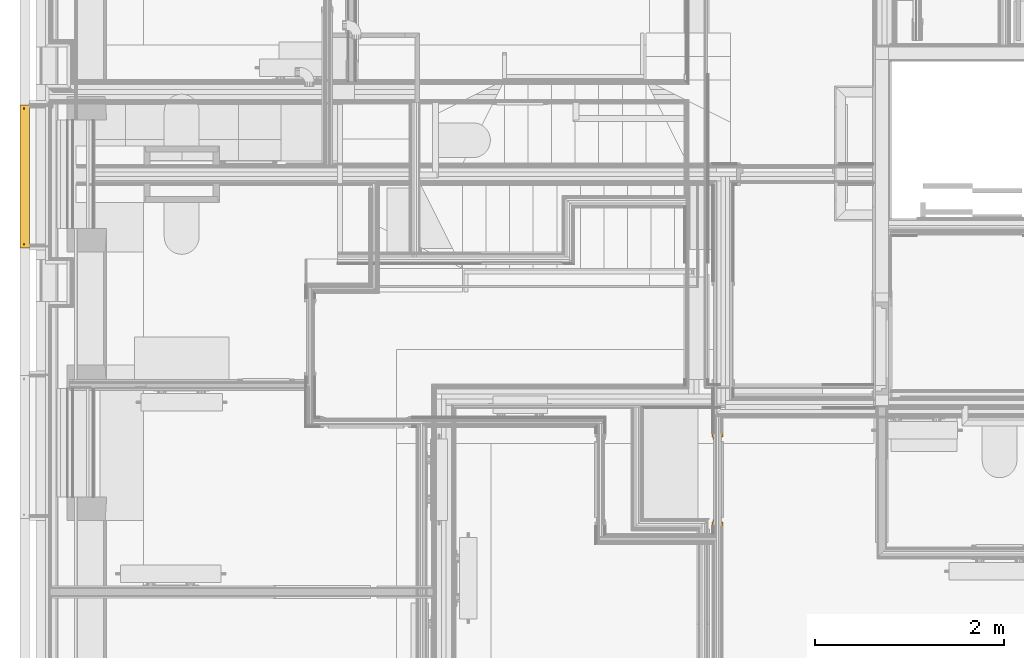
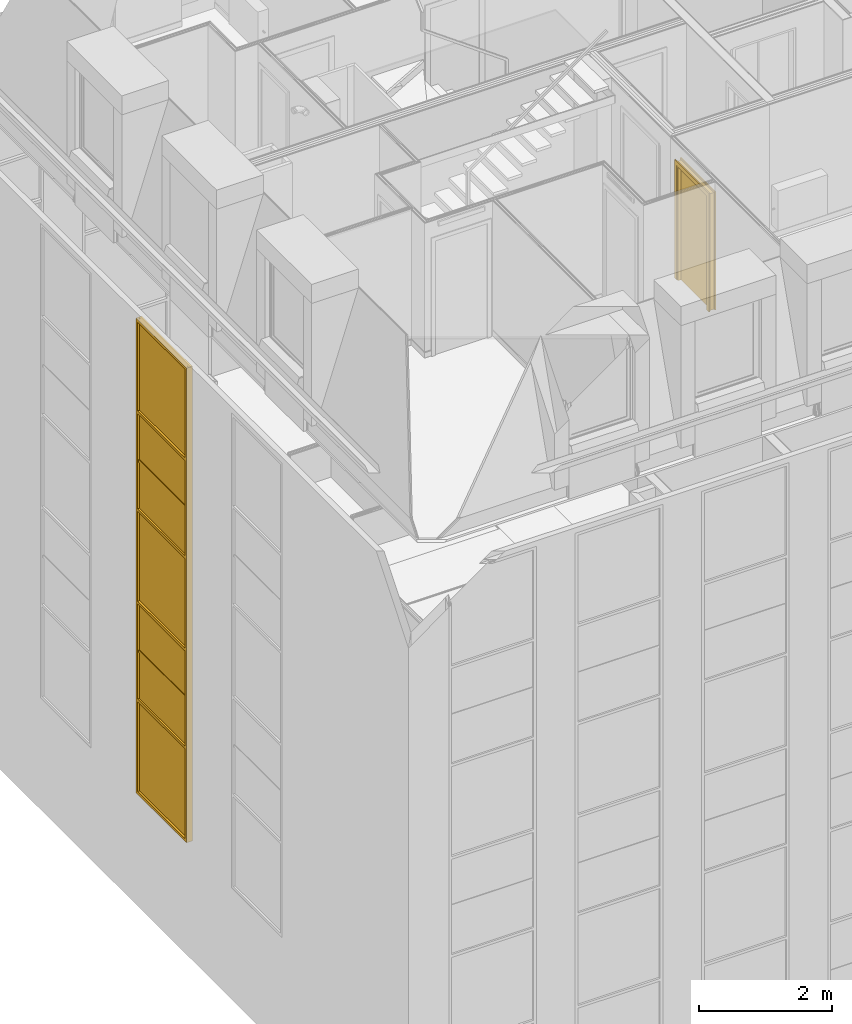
# One storey, part 97 of 169: 1 curtain wall, 1 door.
"""IFC2X3 building model written with IfcOpenShell, lengths in metres."""

from ifc_helpers import new_model, entity, si_unit, converted_unit, derived_unit, money_unit, direction, frame, origin_with_axes, place, context, subcontext, project, spatial, faceted_brep, material, type_object, element, save


model = new_model("IFC2X3")

# Units and contexts
model_context = context("Model", 3, precision=1e-05, world=origin_with_axes(), true_north=direction((0.0, 1.0)))
body_context = subcontext(model_context, "Body", "Model", "MODEL_VIEW", scale=1.0)
ifc_project = project(units=[si_unit("LENGTHUNIT", "METRE"), si_unit("AREAUNIT", "SQUARE_METRE"), si_unit("VOLUMEUNIT", "CUBIC_METRE"), si_unit("ABSORBEDDOSEUNIT", "GRAY"), si_unit("AMOUNTOFSUBSTANCEUNIT", "MOLE"), si_unit("DOSEEQUIVALENTUNIT", "SIEVERT"), si_unit("ELECTRICCAPACITANCEUNIT", "FARAD"), si_unit("ELECTRICCHARGEUNIT", "COULOMB"), si_unit("ELECTRICCONDUCTANCEUNIT", "SIEMENS"), si_unit("ELECTRICCURRENTUNIT", "AMPERE"), si_unit("ELECTRICRESISTANCEUNIT", "OHM"), si_unit("ELECTRICVOLTAGEUNIT", "VOLT"), si_unit("ENERGYUNIT", "JOULE"), si_unit("FORCEUNIT", "NEWTON"), si_unit("FREQUENCYUNIT", "HERTZ"), si_unit("ILLUMINANCEUNIT", "LUX"), si_unit("INDUCTANCEUNIT", "HENRY"), si_unit("LUMINOUSFLUXUNIT", "LUMEN"), si_unit("LUMINOUSINTENSITYUNIT", "CANDELA"), si_unit("MAGNETICFLUXDENSITYUNIT", "TESLA"), si_unit("MAGNETICFLUXUNIT", "WEBER"), si_unit("MASSUNIT", "GRAM"), converted_unit("PLANEANGLEUNIT", "degree", entity("IfcReal", 0.0174532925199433), si_unit("PLANEANGLEUNIT", "RADIAN"), dimensions=[0, 0, 0, 0, 0, 0, 0]), si_unit("POWERUNIT", "WATT"), si_unit("PRESSUREUNIT", "PASCAL"), si_unit("RADIOACTIVITYUNIT", "BECQUEREL"), si_unit("SOLIDANGLEUNIT", "STERADIAN"), si_unit("THERMODYNAMICTEMPERATUREUNIT", "KELVIN"), si_unit("TIMEUNIT", "SECOND"), derived_unit("ACCELERATIONUNIT", [(si_unit("LENGTHUNIT", "METRE"), 1), (si_unit("TIMEUNIT", "SECOND"), -2)]), derived_unit("ANGULARVELOCITYUNIT", [(converted_unit("PLANEANGLEUNIT", "degree", entity("IfcReal", 0.0174532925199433), si_unit("PLANEANGLEUNIT", "RADIAN"), dimensions=[0, 0, 0, 0, 0, 0, 0]), 1), (si_unit("TIMEUNIT", "SECOND"), -1)]), derived_unit("CURVATUREUNIT", [(converted_unit("PLANEANGLEUNIT", "degree", entity("IfcReal", 0.0174532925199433), si_unit("PLANEANGLEUNIT", "RADIAN"), dimensions=[0, 0, 0, 0, 0, 0, 0]), 1), (si_unit("LENGTHUNIT", "METRE"), -1)]), derived_unit("DYNAMICVISCOSITYUNIT", [(si_unit("PRESSUREUNIT", "PASCAL"), 1), (si_unit("TIMEUNIT", "SECOND"), 1)]), derived_unit("HEATFLUXDENSITYUNIT", [(si_unit("POWERUNIT", "WATT"), 1), (si_unit("LENGTHUNIT", "METRE"), -2)]), derived_unit("HEATINGVALUEUNIT", [(si_unit("ENERGYUNIT", "JOULE"), 1), (si_unit("MASSUNIT", "GRAM"), -1)]), derived_unit("INTEGERCOUNTRATEUNIT", [(si_unit("TIMEUNIT", "SECOND"), -1)]), derived_unit("IONCONCENTRATIONUNIT", [(si_unit("MASSUNIT", "GRAM"), 1), (si_unit("VOLUMEUNIT", "CUBIC_METRE"), -1)]), derived_unit("ISOTHERMALMOISTURECAPACITYUNIT", [(si_unit("VOLUMEUNIT", "CUBIC_METRE"), 1), (si_unit("MASSUNIT", "GRAM"), -1)]), derived_unit("KINEMATICVISCOSITYUNIT", [(si_unit("AREAUNIT", "SQUARE_METRE"), 1), (si_unit("TIMEUNIT", "SECOND"), -1)]), derived_unit("LINEARFORCEUNIT", [(si_unit("FORCEUNIT", "NEWTON"), 1), (si_unit("LENGTHUNIT", "METRE"), -1)]), derived_unit("LINEARMOMENTUNIT", [(si_unit("FORCEUNIT", "NEWTON"), 1), (si_unit("LENGTHUNIT", "METRE"), -1)]), derived_unit("LINEARSTIFFNESSUNIT", [(si_unit("FORCEUNIT", "NEWTON"), 1), (si_unit("LENGTHUNIT", "METRE"), -1)]), derived_unit("LINEARVELOCITYUNIT", [(si_unit("LENGTHUNIT", "METRE"), 1), (si_unit("TIMEUNIT", "SECOND"), -1)]), derived_unit("LUMINOUSINTENSITYDISTRIBUTIONUNIT", [(si_unit("LUMINOUSINTENSITYUNIT", "CANDELA"), 1), (si_unit("LUMINOUSFLUXUNIT", "LUMEN"), -1)]), derived_unit("MASSDENSITYUNIT", [(si_unit("MASSUNIT", "GRAM"), 1), (si_unit("VOLUMEUNIT", "CUBIC_METRE"), -1)]), derived_unit("MASSFLOWRATEUNIT", [(si_unit("MASSUNIT", "GRAM"), 1), (si_unit("TIMEUNIT", "SECOND"), -1)]), derived_unit("MASSPERLENGTHUNIT", [(si_unit("MASSUNIT", "GRAM"), 1), (si_unit("LENGTHUNIT", "METRE"), -1)]), derived_unit("MODULUSOFELASTICITYUNIT", [(si_unit("FORCEUNIT", "NEWTON"), 1), (si_unit("AREAUNIT", "SQUARE_METRE"), -1)]), derived_unit("MODULUSOFLINEARSUBGRADEREACTIONUNIT", [(si_unit("FORCEUNIT", "NEWTON"), 1), (si_unit("LENGTHUNIT", "METRE"), -2)]), derived_unit("MODULUSOFROTATIONALSUBGRADEREACTIONUNIT", [(si_unit("FORCEUNIT", "NEWTON"), 1), (si_unit("LENGTHUNIT", "METRE"), 1)]), derived_unit("MODULUSOFSUBGRADEREACTIONUNIT", [(si_unit("FORCEUNIT", "NEWTON"), 1), (si_unit("VOLUMEUNIT", "CUBIC_METRE"), -1)]), derived_unit("MOISTUREDIFFUSIVITYUNIT", [(si_unit("VOLUMEUNIT", "CUBIC_METRE"), 1), (si_unit("TIMEUNIT", "SECOND"), -1)]), derived_unit("MOLECULARWEIGHTUNIT", [(si_unit("MASSUNIT", "GRAM"), 1), (si_unit("AMOUNTOFSUBSTANCEUNIT", "MOLE"), -1)]), derived_unit("PLANARFORCEUNIT", [(si_unit("FORCEUNIT", "NEWTON"), 1), (si_unit("LENGTHUNIT", "METRE"), -2)]), derived_unit("ROTATIONALFREQUENCYUNIT", [(si_unit("TIMEUNIT", "SECOND"), -1)]), derived_unit("ROTATIONALMASSUNIT", [(si_unit("MASSUNIT", "GRAM"), 1), (si_unit("LENGTHUNIT", "METRE"), 2)]), derived_unit("ROTATIONALSTIFFNESSUNIT", [(si_unit("FORCEUNIT", "NEWTON"), 1), (si_unit("LENGTHUNIT", "METRE"), 1), (converted_unit("PLANEANGLEUNIT", "degree", entity("IfcReal", 0.0174532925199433), si_unit("PLANEANGLEUNIT", "RADIAN"), dimensions=[0, 0, 0, 0, 0, 0, 0]), -1)]), derived_unit("SECTIONAREAINTEGRALUNIT", [(si_unit("LENGTHUNIT", "METRE"), 5)]), derived_unit("SECTIONMODULUSUNIT", [(si_unit("LENGTHUNIT", "METRE"), 3)]), derived_unit("SHEARMODULUSUNIT", [(si_unit("FORCEUNIT", "NEWTON"), 1), (si_unit("AREAUNIT", "SQUARE_METRE"), -1)]), derived_unit("SOUNDPOWERUNIT", [(si_unit("ENERGYUNIT", "JOULE"), 1), (si_unit("TIMEUNIT", "SECOND"), -1)]), derived_unit("SPECIFICHEATCAPACITYUNIT", [(si_unit("FORCEUNIT", "NEWTON"), 1), (si_unit("MASSUNIT", "GRAM"), -1), (si_unit("THERMODYNAMICTEMPERATUREUNIT", "KELVIN"), -1)]), derived_unit("TEMPERATUREGRADIENTUNIT", [(si_unit("THERMODYNAMICTEMPERATUREUNIT", "KELVIN"), 1), (si_unit("LENGTHUNIT", "METRE"), -1)]), derived_unit("THERMALADMITTANCEUNIT", [(si_unit("POWERUNIT", "WATT"), 1), (si_unit("AREAUNIT", "SQUARE_METRE"), -1), (si_unit("THERMODYNAMICTEMPERATUREUNIT", "KELVIN"), -1)]), derived_unit("THERMALCONDUCTANCEUNIT", [(si_unit("POWERUNIT", "WATT"), 1), (si_unit("LENGTHUNIT", "METRE"), -1), (si_unit("THERMODYNAMICTEMPERATUREUNIT", "KELVIN"), -1)]), derived_unit("THERMALEXPANSIONCOEFFICIENTUNIT", [(si_unit("THERMODYNAMICTEMPERATUREUNIT", "KELVIN"), -1)]), derived_unit("THERMALRESISTANCEUNIT", [(si_unit("AREAUNIT", "SQUARE_METRE"), 1), (si_unit("POWERUNIT", "WATT"), -1)]), derived_unit("THERMALTRANSMITTANCEUNIT", [(si_unit("POWERUNIT", "WATT"), 1), (si_unit("AREAUNIT", "SQUARE_METRE"), -1), (si_unit("THERMODYNAMICTEMPERATUREUNIT", "KELVIN"), -1)]), derived_unit("TORQUEUNIT", [(si_unit("FORCEUNIT", "NEWTON"), 1), (si_unit("LENGTHUNIT", "METRE"), 1)]), derived_unit("VAPORPERMEABILITYUNIT", [(si_unit("MASSUNIT", "GRAM"), 1), (si_unit("TIMEUNIT", "SECOND"), -1)]), derived_unit("VOLUMETRICFLOWRATEUNIT", [(si_unit("VOLUMEUNIT", "CUBIC_METRE"), 1), (si_unit("TIMEUNIT", "SECOND"), -1)]), derived_unit("WARPINGCONSTANTUNIT", [(si_unit("LENGTHUNIT", "METRE"), 6)]), derived_unit("WARPINGMOMENTUNIT", [(si_unit("FORCEUNIT", "NEWTON"), 1), (si_unit("LENGTHUNIT", "METRE"), 2)]), money_unit("GBP")], contexts=[model_context])

# Site, building, storey
site_placement = place(None, origin_with_axes())
site = spatial("IfcSite", under=ifc_project, at=site_placement, Name="Site", CompositionType="ELEMENT")
building_placement = place(site_placement, origin_with_axes())
building = spatial("IfcBuilding", under=site, at=building_placement, Name="Building01", CompositionType="ELEMENT")
storey_placement = place(building_placement, frame((0.0, 0.0, 5.15), z_axis=(0.0, 0.0, 1.0), x_axis=(1.0, 0.0, 0.0)))
storey = spatial("IfcBuildingStorey", under=building, at=storey_placement, Name="1F", CompositionType="ELEMENT", Elevation=5.15)

# Curtain wall
ifc_material_1 = material(Name="A-CurtainWall_Frame")
curtain_wall_type = type_object("IfcCurtainWallType", Name="Pattern - Maximum Spacing", PredefinedType="NOTDEFINED")
curtain_wall_placement = place(storey_placement, frame((0.0, 0.0, -5.15), z_axis=(0.0, 0.0, 1.0), x_axis=(1.0, 0.0, 0.0)))
element("IfcCurtainWall", 1, at=curtain_wall_placement, inside=storey, type_object=curtain_wall_type, material=ifc_material_1, Name="14", ObjectType="Pattern - Maximum Spacing", context=body_context, shape_type="Brep", body=[
    faceted_brep([(0.047043, 8.15718, 7.729632), (0.037043, 8.15718, 7.729632), (0.037043, 6.69718, 7.729632), (0.047043, 6.69718, 7.729632), (0.047043, 8.15718, 6.045508), (0.037043, 8.15718, 6.045508), (0.047043, 6.69718, 6.045508), (0.037043, 6.69718, 6.045508)], [[[0, 1, 2, 3]], [[4, 5, 1, 0]], [[6, 7, 5, 4]], [[3, 2, 7, 6]], [[1, 5, 7, 2]], [[3, 6, 4, 0]]]),
    faceted_brep([(0.002043, 6.71718, 6.015508), (0.037043, 6.71718, 6.015508), (0.037043, 6.69718, 6.015508), (0.047043, 6.69718, 6.015508), (0.047043, 6.71718, 6.015508), (0.102043, 6.71718, 6.015508), (0.102043, 6.66718, 6.015508), (0.002043, 6.66718, 6.015508), (0.002043, 6.66718, 7.734632), (0.002043, 6.71718, 7.734632), (0.037043, 6.71718, 7.734632), (0.037043, 6.69718, 7.734632), (0.047043, 6.69718, 7.734632), (0.047043, 6.71718, 7.734632), (0.102043, 6.71718, 7.734632), (0.102043, 6.66718, 7.734632)], [[[0, 1, 2, 3, 4, 5, 6, 7]], [[7, 8, 9, 0]], [[0, 9, 10, 1]], [[1, 10, 11, 2]], [[2, 11, 12, 3]], [[3, 12, 13, 4]], [[4, 13, 14, 5]], [[5, 14, 15, 6]], [[6, 15, 8, 7]]]),
    faceted_brep([(0.002043, 8.13718, 6.065508), (0.037043, 8.13718, 6.065508), (0.037043, 8.13718, 6.045508), (0.047043, 8.13718, 6.045508), (0.047043, 8.13718, 6.065508), (0.102043, 8.13718, 6.065508), (0.102043, 8.13718, 6.015508), (0.002043, 8.13718, 6.015508), (0.002043, 6.71718, 6.015508), (0.002043, 6.71718, 6.065508), (0.037043, 6.71718, 6.065508), (0.037043, 6.71718, 6.045508), (0.047043, 6.71718, 6.045508), (0.047043, 6.71718, 6.065508), (0.102043, 6.71718, 6.065508), (0.102043, 6.71718, 6.015508)], [[[0, 1, 2, 3, 4, 5, 6, 7]], [[7, 8, 9, 0]], [[0, 9, 10, 1]], [[1, 10, 11, 2]], [[2, 11, 12, 3]], [[3, 12, 13, 4]], [[4, 13, 14, 5]], [[5, 14, 15, 6]], [[6, 15, 8, 7]], [[8, 15, 14, 13, 12, 11, 10, 9]]]),
    faceted_brep([(0.037043, 8.15718, 6.015508), (0.037043, 8.15718, 7.734632), (0.037043, 8.13718, 7.734632), (0.037043, 8.13718, 6.015508), (0.047043, 8.15718, 6.015508), (0.047043, 8.15718, 7.734632), (0.047043, 8.13718, 6.015508), (0.047043, 8.13718, 7.734632), (0.102043, 8.13718, 6.015508), (0.102043, 8.13718, 7.734632), (0.102043, 8.18718, 6.015508), (0.102043, 8.18718, 7.734632), (0.002043, 8.18718, 6.015508), (0.002043, 8.18718, 7.734632), (0.002043, 8.13718, 6.015508), (0.002043, 8.13718, 7.734632)], [[[0, 1, 2, 3]], [[4, 5, 1, 0]], [[6, 7, 5, 4]], [[8, 9, 7, 6]], [[10, 11, 9, 8]], [[12, 13, 11, 10]], [[14, 15, 13, 12]], [[3, 2, 15, 14]], [[14, 12, 10, 8, 6, 4, 0, 3]]]),
    faceted_brep([(0.047043, 6.71718, 7.739632), (0.037043, 6.71718, 7.739632), (0.037043, 6.71718, 7.759632), (0.002043, 6.71718, 7.759632), (0.002043, 6.71718, 7.709632), (0.037043, 6.71718, 7.709632), (0.037043, 6.71718, 7.729632), (0.047043, 6.71718, 7.729632), (0.047043, 6.71718, 7.709632), (0.102043, 6.71718, 7.709632), (0.102043, 6.71718, 7.759632), (0.047043, 6.71718, 7.759632), (0.047043, 8.13718, 7.759632), (0.047043, 8.13718, 7.739632), (0.037043, 8.13718, 7.739632), (0.037043, 8.13718, 7.759632), (0.002043, 8.13718, 7.759632), (0.002043, 8.13718, 7.709632), (0.037043, 8.13718, 7.709632), (0.047043, 8.13718, 7.729632), (0.047043, 8.13718, 7.709632), (0.037043, 8.13718, 7.729632), (0.102043, 8.13718, 7.759632), (0.102043, 8.13718, 7.709632)], [[[0, 1, 2, 3, 4, 5, 6, 7, 8, 9, 10, 11]], [[11, 12, 13, 0]], [[0, 13, 14, 1]], [[1, 14, 15, 2]], [[2, 15, 16, 3]], [[3, 16, 17, 4]], [[4, 17, 18, 5]], [[7, 19, 20, 8]], [[6, 21, 19, 7]], [[5, 18, 21, 6]], [[10, 22, 12, 11]], [[9, 23, 22, 10]], [[8, 20, 23, 9]], [[20, 19, 21, 18, 17, 16, 15, 14, 13, 12, 22, 23]]]),
    faceted_brep([(0.052043, 8.15718, 8.626522), (0.032043, 8.15718, 8.626522), (0.032043, 6.69718, 8.626522), (0.052043, 6.69718, 8.626522), (0.052043, 8.15718, 7.739632), (0.032043, 8.15718, 7.739632), (0.052043, 6.69718, 7.739632), (0.032043, 6.69718, 7.739632)], [[[0, 1, 2, 3]], [[4, 5, 1, 0]], [[6, 7, 5, 4]], [[3, 2, 7, 6]], [[1, 5, 7, 2]], [[3, 6, 4, 0]]]),
    faceted_brep([(0.102043, 6.66718, 8.631522), (0.102043, 6.66718, 7.734632), (0.102043, 6.71718, 7.734632), (0.102043, 6.71718, 8.631522), (0.002043, 6.66718, 8.631522), (0.002043, 6.66718, 7.734632), (0.002043, 6.71718, 8.631522), (0.002043, 6.71718, 7.734632), (0.037043, 6.71718, 8.631522), (0.037043, 6.71718, 7.734632), (0.037043, 6.69718, 8.631522), (0.037043, 6.69718, 7.734632), (0.047043, 6.69718, 8.631522), (0.047043, 6.69718, 7.734632), (0.047043, 6.71718, 8.631522), (0.047043, 6.71718, 7.734632)], [[[0, 1, 2, 3]], [[4, 5, 1, 0]], [[6, 7, 5, 4]], [[8, 9, 7, 6]], [[10, 11, 9, 8]], [[12, 13, 11, 10]], [[14, 15, 13, 12]], [[3, 2, 15, 14]]]),
    faceted_brep([(0.037043, 8.15718, 7.734632), (0.037043, 8.15718, 8.631522), (0.037043, 8.13718, 8.631522), (0.037043, 8.13718, 7.734632), (0.047043, 8.15718, 7.734632), (0.047043, 8.15718, 8.631522), (0.047043, 8.13718, 7.734632), (0.047043, 8.13718, 8.631522), (0.102043, 8.13718, 7.734632), (0.102043, 8.13718, 8.631522), (0.102043, 8.18718, 7.734632), (0.102043, 8.18718, 8.631522), (0.002043, 8.18718, 7.734632), (0.002043, 8.18718, 8.631522), (0.002043, 8.13718, 7.734632), (0.002043, 8.13718, 8.631522)], [[[0, 1, 2, 3]], [[4, 5, 1, 0]], [[6, 7, 5, 4]], [[8, 9, 7, 6]], [[10, 11, 9, 8]], [[12, 13, 11, 10]], [[14, 15, 13, 12]], [[3, 2, 15, 14]]]),
    faceted_brep([(0.064543, 6.71718, 8.636522), (0.054543, 6.71718, 8.636522), (0.054543, 6.71718, 8.656522), (0.019543, 6.71718, 8.656522), (0.019543, 6.71718, 8.606522), (0.054543, 6.71718, 8.606522), (0.054543, 6.71718, 8.626522), (0.064543, 6.71718, 8.626522), (0.064543, 6.71718, 8.606522), (0.119543, 6.71718, 8.606522), (0.119543, 6.71718, 8.656522), (0.064543, 6.71718, 8.656522), (0.064543, 8.13718, 8.656522), (0.064543, 8.13718, 8.636522), (0.054543, 8.13718, 8.636522), (0.054543, 8.13718, 8.656522), (0.019543, 8.13718, 8.656522), (0.019543, 8.13718, 8.606522), (0.054543, 8.13718, 8.606522), (0.064543, 8.13718, 8.626522), (0.064543, 8.13718, 8.606522), (0.054543, 8.13718, 8.626522), (0.119543, 8.13718, 8.656522), (0.119543, 8.13718, 8.606522)], [[[0, 1, 2, 3, 4, 5, 6, 7, 8, 9, 10, 11]], [[11, 12, 13, 0]], [[0, 13, 14, 1]], [[1, 14, 15, 2]], [[2, 15, 16, 3]], [[3, 16, 17, 4]], [[4, 17, 18, 5]], [[7, 19, 20, 8]], [[6, 21, 19, 7]], [[5, 18, 21, 6]], [[10, 22, 12, 11]], [[9, 23, 22, 10]], [[8, 20, 23, 9]], [[20, 19, 21, 18, 17, 16, 15, 14, 13, 12, 22, 23]]]),
    faceted_brep([(0.052043, 8.15718, 9.523411), (0.032043, 8.15718, 9.523411), (0.032043, 6.69718, 9.523411), (0.052043, 6.69718, 9.523411), (0.052043, 8.15718, 8.636522), (0.032043, 8.15718, 8.636522), (0.052043, 6.69718, 8.636522), (0.032043, 6.69718, 8.636522)], [[[0, 1, 2, 3]], [[4, 5, 1, 0]], [[6, 7, 5, 4]], [[3, 2, 7, 6]], [[1, 5, 7, 2]], [[3, 6, 4, 0]]]),
    faceted_brep([(0.102043, 6.66718, 9.528411), (0.102043, 6.66718, 8.631522), (0.102043, 6.71718, 8.631522), (0.102043, 6.71718, 9.528411), (0.002043, 6.66718, 9.528411), (0.002043, 6.66718, 8.631522), (0.002043, 6.71718, 9.528411), (0.002043, 6.71718, 8.631522), (0.037043, 6.71718, 9.528411), (0.037043, 6.71718, 8.631522), (0.037043, 6.69718, 9.528411), (0.037043, 6.69718, 8.631522), (0.047043, 6.69718, 9.528411), (0.047043, 6.69718, 8.631522), (0.047043, 6.71718, 9.528411), (0.047043, 6.71718, 8.631522)], [[[0, 1, 2, 3]], [[4, 5, 1, 0]], [[6, 7, 5, 4]], [[8, 9, 7, 6]], [[10, 11, 9, 8]], [[12, 13, 11, 10]], [[14, 15, 13, 12]], [[3, 2, 15, 14]]]),
    faceted_brep([(0.037043, 8.15718, 8.631522), (0.037043, 8.15718, 9.528411), (0.037043, 8.13718, 9.528411), (0.037043, 8.13718, 8.631522), (0.047043, 8.15718, 8.631522), (0.047043, 8.15718, 9.528411), (0.047043, 8.13718, 8.631522), (0.047043, 8.13718, 9.528411), (0.102043, 8.13718, 8.631522), (0.102043, 8.13718, 9.528411), (0.102043, 8.18718, 8.631522), (0.102043, 8.18718, 9.528411), (0.002043, 8.18718, 8.631522), (0.002043, 8.18718, 9.528411), (0.002043, 8.13718, 8.631522), (0.002043, 8.13718, 9.528411)], [[[0, 1, 2, 3]], [[4, 5, 1, 0]], [[6, 7, 5, 4]], [[8, 9, 7, 6]], [[10, 11, 9, 8]], [[12, 13, 11, 10]], [[14, 15, 13, 12]], [[3, 2, 15, 14]]]),
    faceted_brep([(0.047043, 6.71718, 9.533411), (0.037043, 6.71718, 9.533411), (0.037043, 6.71718, 9.553411), (0.002043, 6.71718, 9.553411), (0.002043, 6.71718, 9.503411), (0.037043, 6.71718, 9.503411), (0.037043, 6.71718, 9.523411), (0.047043, 6.71718, 9.523411), (0.047043, 6.71718, 9.503411), (0.102043, 6.71718, 9.503411), (0.102043, 6.71718, 9.553411), (0.047043, 6.71718, 9.553411), (0.047043, 8.13718, 9.553411), (0.047043, 8.13718, 9.533411), (0.037043, 8.13718, 9.533411), (0.037043, 8.13718, 9.553411), (0.002043, 8.13718, 9.553411), (0.002043, 8.13718, 9.503411), (0.037043, 8.13718, 9.503411), (0.047043, 8.13718, 9.523411), (0.047043, 8.13718, 9.503411), (0.037043, 8.13718, 9.523411), (0.102043, 8.13718, 9.553411), (0.102043, 8.13718, 9.503411)], [[[0, 1, 2, 3, 4, 5, 6, 7, 8, 9, 10, 11]], [[11, 12, 13, 0]], [[0, 13, 14, 1]], [[1, 14, 15, 2]], [[2, 15, 16, 3]], [[3, 16, 17, 4]], [[4, 17, 18, 5]], [[7, 19, 20, 8]], [[6, 21, 19, 7]], [[5, 18, 21, 6]], [[10, 22, 12, 11]], [[9, 23, 22, 10]], [[8, 20, 23, 9]], [[20, 19, 21, 18, 17, 16, 15, 14, 13, 12, 22, 23]]]),
    faceted_brep([(0.047043, 8.15718, 11.217536), (0.037043, 8.15718, 11.217536), (0.037043, 6.69718, 11.217536), (0.047043, 6.69718, 11.217536), (0.047043, 8.15718, 9.533411), (0.037043, 8.15718, 9.533411), (0.047043, 6.69718, 9.533411), (0.037043, 6.69718, 9.533411)], [[[0, 1, 2, 3]], [[4, 5, 1, 0]], [[6, 7, 5, 4]], [[3, 2, 7, 6]], [[1, 5, 7, 2]], [[3, 6, 4, 0]]]),
    faceted_brep([(0.102043, 6.66718, 11.222536), (0.102043, 6.66718, 9.528411), (0.102043, 6.71718, 9.528411), (0.102043, 6.71718, 11.222536), (0.002043, 6.66718, 11.222536), (0.002043, 6.66718, 9.528411), (0.002043, 6.71718, 11.222536), (0.002043, 6.71718, 9.528411), (0.037043, 6.71718, 11.222536), (0.037043, 6.71718, 9.528411), (0.037043, 6.69718, 11.222536), (0.037043, 6.69718, 9.528411), (0.047043, 6.69718, 11.222536), (0.047043, 6.69718, 9.528411), (0.047043, 6.71718, 11.222536), (0.047043, 6.71718, 9.528411)], [[[0, 1, 2, 3]], [[4, 5, 1, 0]], [[6, 7, 5, 4]], [[8, 9, 7, 6]], [[10, 11, 9, 8]], [[12, 13, 11, 10]], [[14, 15, 13, 12]], [[3, 2, 15, 14]]]),
    faceted_brep([(0.037043, 8.15718, 9.528411), (0.037043, 8.15718, 11.222536), (0.037043, 8.13718, 11.222536), (0.037043, 8.13718, 9.528411), (0.047043, 8.15718, 9.528411), (0.047043, 8.15718, 11.222536), (0.047043, 8.13718, 9.528411), (0.047043, 8.13718, 11.222536), (0.102043, 8.13718, 9.528411), (0.102043, 8.13718, 11.222536), (0.102043, 8.18718, 9.528411), (0.102043, 8.18718, 11.222536), (0.002043, 8.18718, 9.528411), (0.002043, 8.18718, 11.222536), (0.002043, 8.13718, 9.528411), (0.002043, 8.13718, 11.222536)], [[[0, 1, 2, 3]], [[4, 5, 1, 0]], [[6, 7, 5, 4]], [[8, 9, 7, 6]], [[10, 11, 9, 8]], [[12, 13, 11, 10]], [[14, 15, 13, 12]], [[3, 2, 15, 14]]]),
    faceted_brep([(0.047043, 6.71718, 11.227536), (0.037043, 6.71718, 11.227536), (0.037043, 6.71718, 11.247536), (0.002043, 6.71718, 11.247536), (0.002043, 6.71718, 11.197536), (0.037043, 6.71718, 11.197536), (0.037043, 6.71718, 11.217536), (0.047043, 6.71718, 11.217536), (0.047043, 6.71718, 11.197536), (0.102043, 6.71718, 11.197536), (0.102043, 6.71718, 11.247536), (0.047043, 6.71718, 11.247536), (0.047043, 8.13718, 11.247536), (0.047043, 8.13718, 11.227536), (0.037043, 8.13718, 11.227536), (0.037043, 8.13718, 11.247536), (0.002043, 8.13718, 11.247536), (0.002043, 8.13718, 11.197536), (0.037043, 8.13718, 11.197536), (0.047043, 8.13718, 11.217536), (0.047043, 8.13718, 11.197536), (0.037043, 8.13718, 11.217536), (0.102043, 8.13718, 11.247536), (0.102043, 8.13718, 11.197536)], [[[0, 1, 2, 3, 4, 5, 6, 7, 8, 9, 10, 11]], [[11, 12, 13, 0]], [[0, 13, 14, 1]], [[1, 14, 15, 2]], [[2, 15, 16, 3]], [[3, 16, 17, 4]], [[4, 17, 18, 5]], [[7, 19, 20, 8]], [[6, 21, 19, 7]], [[5, 18, 21, 6]], [[10, 22, 12, 11]], [[9, 23, 22, 10]], [[8, 20, 23, 9]], [[20, 19, 21, 18, 17, 16, 15, 14, 13, 12, 22, 23]]]),
    faceted_brep([(0.052043, 8.15718, 12.114425), (0.032043, 8.15718, 12.114425), (0.032043, 6.69718, 12.114425), (0.052043, 6.69718, 12.114425), (0.052043, 8.15718, 11.227536), (0.032043, 8.15718, 11.227536), (0.052043, 6.69718, 11.227536), (0.032043, 6.69718, 11.227536)], [[[0, 1, 2, 3]], [[4, 5, 1, 0]], [[6, 7, 5, 4]], [[3, 2, 7, 6]], [[1, 5, 7, 2]], [[3, 6, 4, 0]]]),
    faceted_brep([(0.102043, 6.66718, 12.119425), (0.102043, 6.66718, 11.222536), (0.102043, 6.71718, 11.222536), (0.102043, 6.71718, 12.119425), (0.002043, 6.66718, 12.119425), (0.002043, 6.66718, 11.222536), (0.002043, 6.71718, 12.119425), (0.002043, 6.71718, 11.222536), (0.037043, 6.71718, 12.119425), (0.037043, 6.71718, 11.222536), (0.037043, 6.69718, 12.119425), (0.037043, 6.69718, 11.222536), (0.047043, 6.69718, 12.119425), (0.047043, 6.69718, 11.222536), (0.047043, 6.71718, 12.119425), (0.047043, 6.71718, 11.222536)], [[[0, 1, 2, 3]], [[4, 5, 1, 0]], [[6, 7, 5, 4]], [[8, 9, 7, 6]], [[10, 11, 9, 8]], [[12, 13, 11, 10]], [[14, 15, 13, 12]], [[3, 2, 15, 14]]]),
    faceted_brep([(0.037043, 8.15718, 11.222536), (0.037043, 8.15718, 12.119425), (0.037043, 8.13718, 12.119425), (0.037043, 8.13718, 11.222536), (0.047043, 8.15718, 11.222536), (0.047043, 8.15718, 12.119425), (0.047043, 8.13718, 11.222536), (0.047043, 8.13718, 12.119425), (0.102043, 8.13718, 11.222536), (0.102043, 8.13718, 12.119425), (0.102043, 8.18718, 11.222536), (0.102043, 8.18718, 12.119425), (0.002043, 8.18718, 11.222536), (0.002043, 8.18718, 12.119425), (0.002043, 8.13718, 11.222536), (0.002043, 8.13718, 12.119425)], [[[0, 1, 2, 3]], [[4, 5, 1, 0]], [[6, 7, 5, 4]], [[8, 9, 7, 6]], [[10, 11, 9, 8]], [[12, 13, 11, 10]], [[14, 15, 13, 12]], [[3, 2, 15, 14]]]),
    faceted_brep([(0.064543, 6.71718, 12.124425), (0.054543, 6.71718, 12.124425), (0.054543, 6.71718, 12.144425), (0.019543, 6.71718, 12.144425), (0.019543, 6.71718, 12.094425), (0.054543, 6.71718, 12.094425), (0.054543, 6.71718, 12.114425), (0.064543, 6.71718, 12.114425), (0.064543, 6.71718, 12.094425), (0.119543, 6.71718, 12.094425), (0.119543, 6.71718, 12.144425), (0.064543, 6.71718, 12.144425), (0.064543, 8.13718, 12.144425), (0.064543, 8.13718, 12.124425), (0.054543, 8.13718, 12.124425), (0.054543, 8.13718, 12.144425), (0.019543, 8.13718, 12.144425), (0.019543, 8.13718, 12.094425), (0.054543, 8.13718, 12.094425), (0.064543, 8.13718, 12.114425), (0.064543, 8.13718, 12.094425), (0.054543, 8.13718, 12.114425), (0.119543, 8.13718, 12.144425), (0.119543, 8.13718, 12.094425)], [[[0, 1, 2, 3, 4, 5, 6, 7, 8, 9, 10, 11]], [[11, 12, 13, 0]], [[0, 13, 14, 1]], [[1, 14, 15, 2]], [[2, 15, 16, 3]], [[3, 16, 17, 4]], [[4, 17, 18, 5]], [[7, 19, 20, 8]], [[6, 21, 19, 7]], [[5, 18, 21, 6]], [[10, 22, 12, 11]], [[9, 23, 22, 10]], [[8, 20, 23, 9]], [[20, 19, 21, 18, 17, 16, 15, 14, 13, 12, 22, 23]]]),
    faceted_brep([(0.047043, 6.69718, 13.021314), (0.037043, 6.69718, 13.021314), (0.037043, 8.15718, 13.021314), (0.047043, 8.15718, 13.021314), (0.047043, 6.69718, 14.685508), (0.037043, 6.69718, 14.685508), (0.047043, 8.15718, 14.685508), (0.037043, 8.15718, 14.685508)], [[[0, 1, 2, 3]], [[4, 5, 1, 0]], [[6, 7, 5, 4]], [[3, 2, 7, 6]], [[1, 5, 7, 2]], [[3, 6, 4, 0]]]),
    faceted_brep([(0.037043, 8.15718, 14.715508), (0.047043, 8.15718, 14.715508), (0.047043, 8.13718, 14.715508), (0.102043, 8.13718, 14.715508), (0.102043, 8.18718, 14.715508), (0.002043, 8.18718, 14.715508), (0.002043, 8.13718, 14.715508), (0.037043, 8.13718, 14.715508), (0.037043, 8.13718, 13.016314), (0.037043, 8.15718, 13.016314), (0.047043, 8.15718, 13.016314), (0.047043, 8.13718, 13.016314), (0.102043, 8.13718, 13.016314), (0.102043, 8.18718, 13.016314), (0.002043, 8.18718, 13.016314), (0.002043, 8.13718, 13.016314)], [[[0, 1, 2, 3, 4, 5, 6, 7]], [[7, 8, 9, 0]], [[0, 9, 10, 1]], [[1, 10, 11, 2]], [[2, 11, 12, 3]], [[3, 12, 13, 4]], [[4, 13, 14, 5]], [[5, 14, 15, 6]], [[6, 15, 8, 7]]]),
    faceted_brep([(0.037043, 6.71718, 14.685508), (0.047043, 6.71718, 14.685508), (0.047043, 6.71718, 14.665508), (0.102043, 6.71718, 14.665508), (0.102043, 6.71718, 14.715508), (0.002043, 6.71718, 14.715508), (0.002043, 6.71718, 14.665508), (0.037043, 6.71718, 14.665508), (0.037043, 8.13718, 14.665508), (0.037043, 8.13718, 14.685508), (0.047043, 8.13718, 14.685508), (0.047043, 8.13718, 14.665508), (0.102043, 8.13718, 14.665508), (0.102043, 8.13718, 14.715508), (0.002043, 8.13718, 14.715508), (0.002043, 8.13718, 14.665508)], [[[0, 1, 2, 3, 4, 5, 6, 7]], [[7, 8, 9, 0]], [[0, 9, 10, 1]], [[1, 10, 11, 2]], [[2, 11, 12, 3]], [[3, 12, 13, 4]], [[4, 13, 14, 5]], [[5, 14, 15, 6]], [[6, 15, 8, 7]], [[8, 15, 14, 13, 12, 11, 10, 9]]]),
    faceted_brep([(0.002043, 6.71718, 14.715508), (0.002043, 6.71718, 13.016314), (0.002043, 6.66718, 13.016314), (0.002043, 6.66718, 14.715508), (0.037043, 6.71718, 14.715508), (0.037043, 6.71718, 13.016314), (0.037043, 6.69718, 14.715508), (0.037043, 6.69718, 13.016314), (0.047043, 6.69718, 14.715508), (0.047043, 6.69718, 13.016314), (0.047043, 6.71718, 14.715508), (0.047043, 6.71718, 13.016314), (0.102043, 6.71718, 14.715508), (0.102043, 6.71718, 13.016314), (0.102043, 6.66718, 14.715508), (0.102043, 6.66718, 13.016314)], [[[0, 1, 2, 3]], [[4, 5, 1, 0]], [[6, 7, 5, 4]], [[8, 9, 7, 6]], [[10, 11, 9, 8]], [[12, 13, 11, 10]], [[14, 15, 13, 12]], [[3, 2, 15, 14]], [[14, 12, 10, 8, 6, 4, 0, 3]]]),
    faceted_brep([(0.037043, 8.13718, 13.021314), (0.047043, 8.13718, 13.021314), (0.047043, 8.13718, 13.041314), (0.102043, 8.13718, 13.041314), (0.102043, 8.13718, 12.991314), (0.047043, 8.13718, 12.991314), (0.047043, 8.13718, 13.011314), (0.037043, 8.13718, 13.011314), (0.037043, 8.13718, 12.991314), (0.002043, 8.13718, 12.991314), (0.002043, 8.13718, 13.041314), (0.037043, 8.13718, 13.041314), (0.037043, 6.71718, 13.041314), (0.037043, 6.71718, 13.021314), (0.047043, 6.71718, 13.021314), (0.047043, 6.71718, 13.041314), (0.102043, 6.71718, 13.041314), (0.102043, 6.71718, 12.991314), (0.047043, 6.71718, 12.991314), (0.037043, 6.71718, 13.011314), (0.037043, 6.71718, 12.991314), (0.047043, 6.71718, 13.011314), (0.002043, 6.71718, 13.041314), (0.002043, 6.71718, 12.991314)], [[[0, 1, 2, 3, 4, 5, 6, 7, 8, 9, 10, 11]], [[11, 12, 13, 0]], [[0, 13, 14, 1]], [[1, 14, 15, 2]], [[2, 15, 16, 3]], [[3, 16, 17, 4]], [[4, 17, 18, 5]], [[7, 19, 20, 8]], [[6, 21, 19, 7]], [[5, 18, 21, 6]], [[10, 22, 12, 11]], [[9, 23, 22, 10]], [[8, 20, 23, 9]], [[20, 19, 21, 18, 17, 16, 15, 14, 13, 12, 22, 23]]]),
    faceted_brep([(0.052043, 8.15718, 13.011314), (0.032043, 8.15718, 13.011314), (0.032043, 6.69718, 13.011314), (0.052043, 6.69718, 13.011314), (0.052043, 8.15718, 12.124425), (0.032043, 8.15718, 12.124425), (0.052043, 6.69718, 12.124425), (0.032043, 6.69718, 12.124425)], [[[0, 1, 2, 3]], [[4, 5, 1, 0]], [[6, 7, 5, 4]], [[3, 2, 7, 6]], [[1, 5, 7, 2]], [[3, 6, 4, 0]]]),
    faceted_brep([(0.102043, 6.66718, 13.016314), (0.102043, 6.66718, 12.119425), (0.102043, 6.71718, 12.119425), (0.102043, 6.71718, 13.016314), (0.002043, 6.66718, 13.016314), (0.002043, 6.66718, 12.119425), (0.002043, 6.71718, 13.016314), (0.002043, 6.71718, 12.119425), (0.037043, 6.71718, 13.016314), (0.037043, 6.71718, 12.119425), (0.037043, 6.69718, 13.016314), (0.037043, 6.69718, 12.119425), (0.047043, 6.69718, 13.016314), (0.047043, 6.69718, 12.119425), (0.047043, 6.71718, 13.016314), (0.047043, 6.71718, 12.119425)], [[[0, 1, 2, 3]], [[4, 5, 1, 0]], [[6, 7, 5, 4]], [[8, 9, 7, 6]], [[10, 11, 9, 8]], [[12, 13, 11, 10]], [[14, 15, 13, 12]], [[3, 2, 15, 14]]]),
    faceted_brep([(0.037043, 8.15718, 12.119425), (0.037043, 8.15718, 13.016314), (0.037043, 8.13718, 13.016314), (0.037043, 8.13718, 12.119425), (0.047043, 8.15718, 12.119425), (0.047043, 8.15718, 13.016314), (0.047043, 8.13718, 12.119425), (0.047043, 8.13718, 13.016314), (0.102043, 8.13718, 12.119425), (0.102043, 8.13718, 13.016314), (0.102043, 8.18718, 12.119425), (0.102043, 8.18718, 13.016314), (0.002043, 8.18718, 12.119425), (0.002043, 8.18718, 13.016314), (0.002043, 8.13718, 12.119425), (0.002043, 8.13718, 13.016314)], [[[0, 1, 2, 3]], [[4, 5, 1, 0]], [[6, 7, 5, 4]], [[8, 9, 7, 6]], [[10, 11, 9, 8]], [[12, 13, 11, 10]], [[14, 15, 13, 12]], [[3, 2, 15, 14]]]),
])

# Space
space_placement = place(storey_placement, frame((12.175, 4.189428, 9.86), z_axis=(0.0, 0.0, 1.0), x_axis=(0.0, 1.0, 0.0)))
space = spatial("IfcSpace", under=storey, at=space_placement, Name="25", CompositionType="ELEMENT", InteriorOrExteriorSpace="NOTDEFINED")

# Door
ifc_material_2 = material(Name="A_BSUK_Doors")
door_style = type_object("IfcDoorStyle", Name="A-Doors-SingleFlush", ConstructionType="USERDEFINED", OperationType="SINGLE_SWING_LEFT", ParameterTakesPrecedence=False, Sizeable=False)
door_placement = place(storey_placement, frame((7.44, 4.659939, 9.83), z_axis=(0.0, 0.0, 1.0), x_axis=(0.0, -1.0, 0.0)))
element("IfcDoor", 2, at=door_placement, inside=space, type_object=door_style, material=ifc_material_2, Name="4.22", ObjectType="A-Doors-SingleFlush", OverallHeight=2.16900000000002, OverallWidth=1.03800000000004, context=body_context, shape_type="Brep", body=[
    faceted_brep([(0.0, -0.099, 2.1), (0.9, -0.099, 2.1), (0.9, -0.099, 0.0), (0.969, -0.099, 0.0), (0.969, -0.099, 2.169), (-0.069, -0.099, 2.169), (-0.069, -0.099, 0.0), (0.0, -0.099, 0.0), (0.969, -0.08, 2.169), (0.969, -0.08, 0.0), (-0.069, -0.08, 0.0), (-0.069, -0.08, 2.169), (-0.042, -0.08, 0.0), (-0.042, 0.0, 0.0), (-0.069, 0.0, 0.0), (-0.069, 0.019, 0.0), (0.0, 0.019, 0.0), (0.0, 0.019, 2.1), (0.9, 0.019, 2.1), (-0.069, 0.019, 2.169), (0.969, 0.019, 2.169), (0.969, 0.019, 0.0), (0.9, 0.019, 0.0), (-0.069, 0.0, 2.169), (-0.042, 0.0, 2.142), (-0.042, -0.08, 2.142), (0.942, 0.0, 2.142), (0.942, -0.08, 2.142), (0.942, -0.08, 0.0), (0.942, 0.0, 0.0), (0.969, 0.0, 0.0), (0.969, 0.0, 2.169)], [[[0, 1, 2, 3, 4, 5, 6, 7]], [[8, 4, 3, 9]], [[10, 6, 5, 11]], [[11, 5, 4, 8]], [[7, 6, 10, 12, 13, 14, 15, 16]], [[7, 16, 17, 0]], [[0, 17, 18, 1]], [[17, 16, 15, 19, 20, 21, 22, 18]], [[1, 18, 22, 2]], [[14, 23, 19, 15]], [[24, 13, 12, 25]], [[26, 24, 25, 27]], [[11, 8, 9, 28, 27, 25, 12, 10]], [[27, 28, 29, 26]], [[26, 29, 30, 31, 23, 14, 13, 24]], [[22, 21, 30, 29, 28, 9, 3, 2]], [[30, 21, 20, 31]], [[31, 20, 19, 23]]]),
    faceted_brep([(0.9, -0.09, 0.0), (0.9, -0.04, 0.0), (0.9, -0.04, 2.1), (0.9, -0.09, 2.1), (0.025, -0.09, 2.075), (0.875, -0.09, 2.075), (0.875, -0.09, 0.0), (0.0, -0.09, 2.1), (0.0, -0.09, 0.0), (0.025, -0.09, 0.0), (0.0, -0.04, 0.0), (0.025, -0.04, 0.0), (0.0, -0.04, 2.1), (0.025, -0.04, 2.075), (0.875, -0.04, 0.0), (0.875, -0.04, 2.075)], [[[0, 1, 2, 3]], [[4, 5, 6, 0, 3, 7, 8, 9]], [[9, 8, 10, 11]], [[3, 2, 12, 7]], [[7, 12, 10, 8]], [[13, 11, 10, 12, 2, 1, 14, 15]], [[5, 15, 14, 6]], [[14, 1, 0, 6]], [[9, 11, 13, 4]], [[4, 13, 15, 5]]]),
    faceted_brep([(0.0, -0.04, 2.1), (0.0, 0.0, 2.1), (0.0, 0.0, 0.0), (0.0, -0.04, 0.0), (0.9, -0.04, 0.0), (0.9, 0.0, 0.0), (0.9, 0.0, 2.1), (0.9, -0.04, 2.1)], [[[0, 1, 2, 3]], [[4, 5, 6, 7]], [[3, 2, 5, 4]], [[3, 4, 7, 0]], [[7, 6, 1, 0]], [[1, 6, 5, 2]]]),
])

save(model, "model.ifc")
